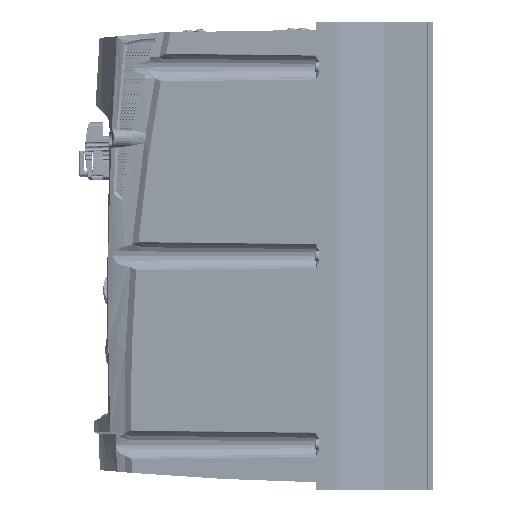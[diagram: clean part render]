
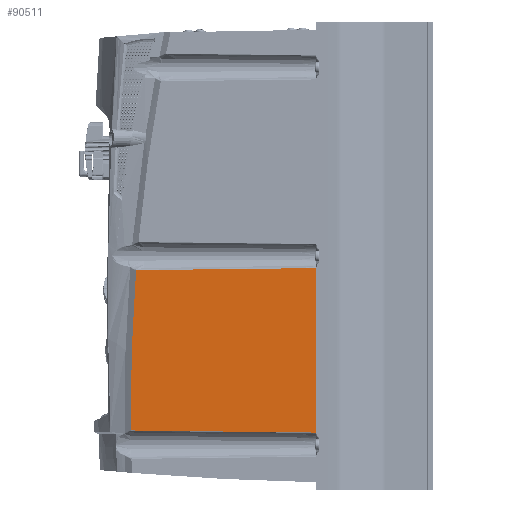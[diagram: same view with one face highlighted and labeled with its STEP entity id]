
A CAD part, left-side view. The second image highlights one B-rep face of the part: STEP entity #90511.
In plain terms, the highlighted planar face has unit normal (-1, 0.018, 0).
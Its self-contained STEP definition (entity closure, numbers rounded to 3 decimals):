
#4013 = CARTESIAN_POINT ( 'NONE',  ( -93.033, 124.492, -9.435 ) ) ;
#4833 = CARTESIAN_POINT ( 'NONE',  ( -92.972, 127.942, -115.598 ) ) ;
#12923 = VERTEX_POINT ( 'NONE', #139255 ) ;
#13474 = ORIENTED_EDGE ( 'NONE', *, *, #74957, .T. ) ;
#16711 = B_SPLINE_CURVE_WITH_KNOTS ( 'NONE', 3,
 ( #192526, #35596, #79444, #4013 ),
 .UNSPECIFIED., .F., .F.,
 ( 4, 4 ),
 ( 0., 0. ),
 .UNSPECIFIED. ) ;
#22731 = EDGE_CURVE ( 'NONE', #47942, #119989, #135123, .T. ) ;
#35596 = CARTESIAN_POINT ( 'NONE',  ( -93.033, 124.491, -9.421 ) ) ;
#38363 = CARTESIAN_POINT ( 'NONE',  ( -95.11, 5.491, -155.044 ) ) ;
#39657 = PLANE ( 'NONE',  #159590 ) ;
#40008 = EDGE_LOOP ( 'NONE', ( #64910, #114486, #89814, #149107, #142043, #13474 ) ) ;
#47698 = CARTESIAN_POINT ( 'NONE',  ( -92.972, 127.942, -115.598 ) ) ;
#47942 = VERTEX_POINT ( 'NONE', #198236 ) ;
#48190 = B_SPLINE_CURVE_WITH_KNOTS ( 'NONE', 3,
 ( #142553, #187418, #62078, #97715 ),
 .UNSPECIFIED., .F., .F.,
 ( 4, 4 ),
 ( 0., 0.119 ),
 .UNSPECIFIED. ) ;
#49347 = CARTESIAN_POINT ( 'NONE',  ( -92.965, 128.365, -80.182 ) ) ;
#60660 = CARTESIAN_POINT ( 'NONE',  ( -93.033, 124.492, -9.435 ) ) ;
#62078 = CARTESIAN_POINT ( 'NONE',  ( -93.725, 84.823, -8.996 ) ) ;
#63303 = CARTESIAN_POINT ( 'NONE',  ( -95.11, 5.491, -8.062 ) ) ;
#64910 = ORIENTED_EDGE ( 'NONE', *, *, #116296, .T. ) ;
#74957 = EDGE_CURVE ( 'NONE', #12923, #98942, #179012, .T. ) ;
#77919 = CARTESIAN_POINT ( 'NONE',  ( -92.985, 127.213, -44.748 ) ) ;
#79271 = CARTESIAN_POINT ( 'NONE',  ( -92.972, 127.939, -115.636 ) ) ;
#79444 = CARTESIAN_POINT ( 'NONE',  ( -93.033, 124.491, -9.428 ) ) ;
#81240 = DIRECTION ( 'NONE',  ( 0., 0., 1. ) ) ;
#86550 = CARTESIAN_POINT ( 'NONE',  ( -95.207, -0.087, -155.044 ) ) ;
#89570 = DIRECTION ( 'NONE',  ( -1., 0.017, 0. ) ) ;
#89814 = ORIENTED_EDGE ( 'NONE', *, *, #22731, .T. ) ;
#90511 = ADVANCED_FACE ( 'NONE', ( #198617 ), #39657, .T. ) ;
#94618 = CARTESIAN_POINT ( 'NONE',  ( -92.972, 127.942, -115.611 ) ) ;
#97715 = CARTESIAN_POINT ( 'NONE',  ( -93.033, 124.49, -9.414 ) ) ;
#98942 = VERTEX_POINT ( 'NONE', #63303 ) ;
#101547 = EDGE_CURVE ( 'NONE', #150721, #12923, #105113, .T. ) ;
#105113 = B_SPLINE_CURVE_WITH_KNOTS ( 'NONE', 3,
 ( #141825, #119751, #105510, #120752 ),
 .UNSPECIFIED., .F., .F.,
 ( 4, 4 ),
 ( 0., 0.122 ),
 .UNSPECIFIED. ) ;
#105510 = CARTESIAN_POINT ( 'NONE',  ( -94.397, 46.307, -116.522 ) ) ;
#109911 = CARTESIAN_POINT ( 'NONE',  ( -92.972, 127.941, -115.624 ) ) ;
#114384 = VECTOR ( 'NONE', #81240, 1000. ) ;
#114486 = ORIENTED_EDGE ( 'NONE', *, *, #197915, .T. ) ;
#116296 = EDGE_CURVE ( 'NONE', #98942, #154762, #48190, .T. ) ;
#119751 = CARTESIAN_POINT ( 'NONE',  ( -93.685, 87.123, -116.065 ) ) ;
#119989 = VERTEX_POINT ( 'NONE', #4833 ) ;
#120752 = CARTESIAN_POINT ( 'NONE',  ( -95.11, 5.491, -117.025 ) ) ;
#135123 = B_SPLINE_CURVE_WITH_KNOTS ( 'NONE', 3,
 ( #60660, #77919, #49347, #142123 ),
 .UNSPECIFIED., .F., .F.,
 ( 4, 4 ),
 ( 0., 0.107 ),
 .UNSPECIFIED. ) ;
#139255 = CARTESIAN_POINT ( 'NONE',  ( -95.11, 5.491, -117.025 ) ) ;
#141825 = CARTESIAN_POINT ( 'NONE',  ( -92.972, 127.939, -115.636 ) ) ;
#142043 = ORIENTED_EDGE ( 'NONE', *, *, #101547, .T. ) ;
#142123 = CARTESIAN_POINT ( 'NONE',  ( -92.972, 127.942, -115.598 ) ) ;
#142553 = CARTESIAN_POINT ( 'NONE',  ( -95.11, 5.491, -8.062 ) ) ;
#149107 = ORIENTED_EDGE ( 'NONE', *, *, #186900, .T. ) ;
#150721 = VERTEX_POINT ( 'NONE', #151655 ) ;
#151655 = CARTESIAN_POINT ( 'NONE',  ( -92.972, 127.939, -115.636 ) ) ;
#151729 = DIRECTION ( 'NONE',  ( 0.017, 1., 0. ) ) ;
#154762 = VERTEX_POINT ( 'NONE', #199379 ) ;
#159590 = AXIS2_PLACEMENT_3D ( 'NONE', #86550, #89570, #151729 ) ;
#178598 = B_SPLINE_CURVE_WITH_KNOTS ( 'NONE', 3,
 ( #47698, #94618, #109911, #79271 ),
 .UNSPECIFIED., .F., .F.,
 ( 4, 4 ),
 ( 0., 0. ),
 .UNSPECIFIED. ) ;
#179012 = LINE ( 'NONE', #38363, #114384 ) ;
#186900 = EDGE_CURVE ( 'NONE', #119989, #150721, #178598, .T. ) ;
#187418 = CARTESIAN_POINT ( 'NONE',  ( -94.417, 45.157, -8.551 ) ) ;
#192526 = CARTESIAN_POINT ( 'NONE',  ( -93.033, 124.49, -9.414 ) ) ;
#197915 = EDGE_CURVE ( 'NONE', #154762, #47942, #16711, .T. ) ;
#198236 = CARTESIAN_POINT ( 'NONE',  ( -93.033, 124.492, -9.435 ) ) ;
#198617 = FACE_OUTER_BOUND ( 'NONE', #40008, .T. ) ;
#199379 = CARTESIAN_POINT ( 'NONE',  ( -93.033, 124.49, -9.414 ) ) ;
